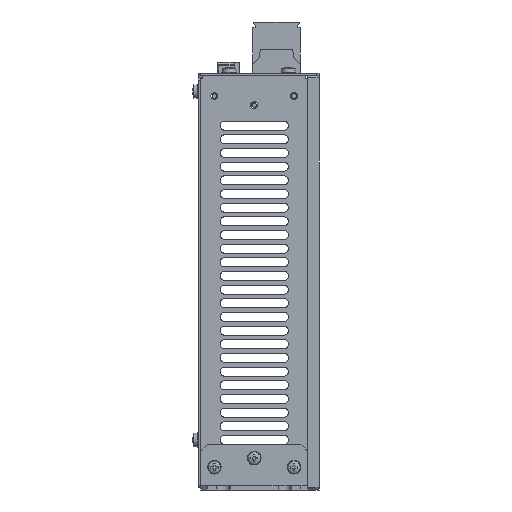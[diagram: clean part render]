
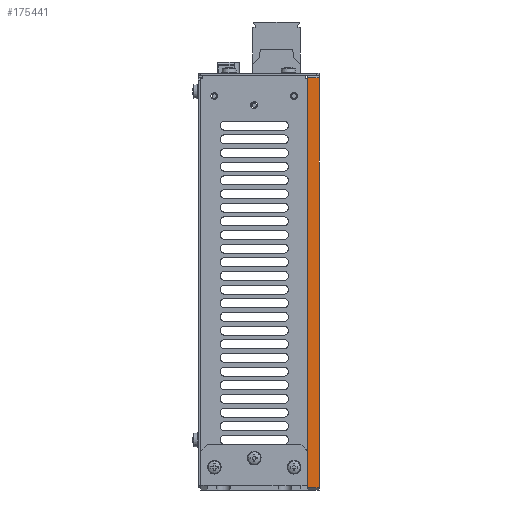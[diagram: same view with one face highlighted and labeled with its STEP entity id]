
A CAD part, front view. The second image highlights one B-rep face of the part: STEP entity #175441.
In plain terms, the highlighted planar face has unit normal (0, -1, 0).
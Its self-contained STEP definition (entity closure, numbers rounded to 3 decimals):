
#175378=CARTESIAN_POINT('',(37.951,-98.285,-16.585));
#175379=VERTEX_POINT('',#175378);
#175386=CARTESIAN_POINT('',(32.951,-98.285,-16.585));
#175387=VERTEX_POINT('',#175386);
#175388=CARTESIAN_POINT('',(32.951,-98.285,-16.585));
#175389=DIRECTION('',(1.,0.,-0.));
#175390=VECTOR('',#175389,5.);
#175391=LINE('',#175388,#175390);
#175392=EDGE_CURVE('',#175387,#175379,#175391,.T.);
#175411=CARTESIAN_POINT('',(32.951,-98.285,73.415));
#175412=DIRECTION('',(0.,1.,0.));
#175413=DIRECTION('',(-1.,0.,0.));
#175414=AXIS2_PLACEMENT_3D('',#175411,#175412,#175413);
#175415=PLANE('',#175414);
#175416=CARTESIAN_POINT('',(37.951,-98.285,163.415));
#175417=VERTEX_POINT('',#175416);
#175418=CARTESIAN_POINT('',(37.951,-98.285,-16.585));
#175419=DIRECTION('',(0.,0.,1.));
#175420=VECTOR('',#175419,180.);
#175421=LINE('',#175418,#175420);
#175422=EDGE_CURVE('',#175379,#175417,#175421,.T.);
#175423=ORIENTED_EDGE('',*,*,#175422,.T.);
#175424=CARTESIAN_POINT('',(32.951,-98.285,163.415));
#175425=VERTEX_POINT('',#175424);
#175426=CARTESIAN_POINT('',(32.951,-98.285,163.415));
#175427=DIRECTION('',(1.,0.,-0.));
#175428=VECTOR('',#175427,5.);
#175429=LINE('',#175426,#175428);
#175430=EDGE_CURVE('',#175425,#175417,#175429,.T.);
#175431=ORIENTED_EDGE('',*,*,#175430,.F.);
#175432=CARTESIAN_POINT('',(32.951,-98.285,-16.585));
#175433=DIRECTION('',(0.,0.,1.));
#175434=VECTOR('',#175433,180.);
#175435=LINE('',#175432,#175434);
#175436=EDGE_CURVE('',#175387,#175425,#175435,.T.);
#175437=ORIENTED_EDGE('',*,*,#175436,.F.);
#175438=ORIENTED_EDGE('',*,*,#175392,.T.);
#175439=EDGE_LOOP('',(#175423,#175431,#175437,#175438));
#175440=FACE_BOUND('',#175439,.T.);
#175441=ADVANCED_FACE('',(#175440),#175415,.F.);
